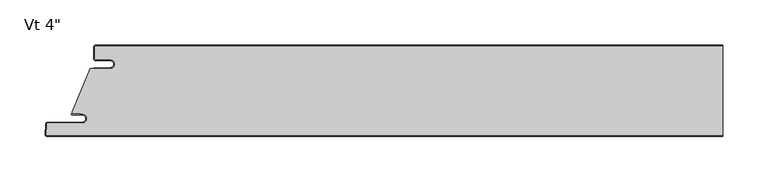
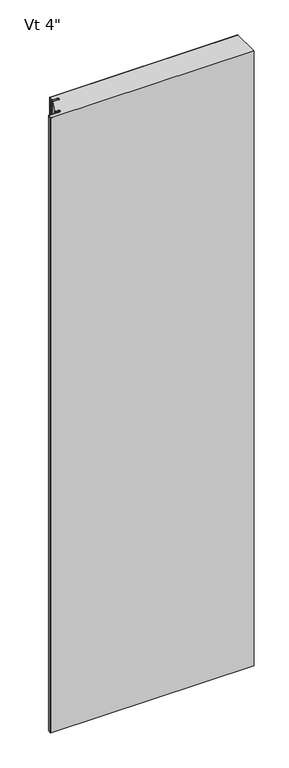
"""IFC4 building model written with IfcOpenShell, lengths in millimetres: plate geometry."""

from ifc_helpers import new_model, si_unit, point, frame_2d, origin, origin_with_axes, place, context, project, spatial, polyline, circle_curve, trimmed, segment, composite_curve, outline, extrude, source, transform, mapped, element, save


def plate_cc8460fd(model_context):
    return source(origin(), model_context, "Body", "SweptSolid", [
        extrude(outline(composite_curve([segment(polyline([(-329.8499998, -16.4625), (-345.7249998, -16.4625)]), True, "CONTINUOUS"), segment(trimmed(circle_curve(frame_2d((-345.7249998, -15.08125)), 1.38125), [point((-345.7249998, -16.4625))], [point((-347.1062498, -15.08125))], False, "CARTESIAN"), True, "CONTINUOUS"), segment(polyline([(-347.1062498, -15.08125), (-347.1062498, -2.38125)]), True, "CONTINUOUS"), segment(trimmed(circle_curve(frame_2d((-345.7249998, -2.38125)), 1.38125), [point((-347.1062498, -2.38125))], [point((-345.7249998, -1.0))], False, "CARTESIAN"), True, "CONTINUOUS"), segment(polyline([(-345.7249998, -1.0), (348.8999998, -1.0), (348.8999998, -100.6), (-399.5862034, -100.6)]), True, "CONTINUOUS"), segment(trimmed(circle_curve(frame_2d((-399.5862034, -99.21875)), 1.38125), [point((-399.5862034, -100.6))], [point((-400.9655604, -99.146461))], False, "CARTESIAN"), True, "CONTINUOUS"), segment(polyline([(-400.9655604, -99.146461), (-400.383179, -88.033961)]), True, "CONTINUOUS"), segment(trimmed(circle_curve(frame_2d((-399.0038219, -88.10625)), 1.38125), [point((-400.383179, -88.033961))], [point((-399.0038219, -86.725))], False, "CARTESIAN"), True, "CONTINUOUS"), segment(polyline([(-399.0038219, -86.725), (-360.8205173, -86.725)]), True, "CONTINUOUS"), segment(trimmed(circle_curve(frame_2d((-360.8205173, -81.75625)), 4.96875), [point((-360.8205173, -86.725))], [point((-360.8205173, -76.7875))], True, "CARTESIAN"), True, "CONTINUOUS"), segment(polyline([(-360.8205173, -76.7875), (-362.4080173, -76.99375), (-362.4080173, -76.2), (-371.9187498, -76.2), (-371.9187498, -74.6157227), (-352.0323421, -26.4), (-329.8499998, -26.4)]), True, "CONTINUOUS"), segment(trimmed(circle_curve(frame_2d((-329.8499998, -21.43125)), 4.96875), [point((-329.8499998, -26.4))], [point((-329.8499998, -16.4625))], True, "CARTESIAN"), True, "CONTINUOUS")], self_intersect=False)), origin_with_axes(), (0.0, 0.0, 1.0), 2400.0),
        extrude(outline(composite_curve([segment(polyline([(-348.1062498, -25.4), (-329.8499998, -25.4)]), True, "CONTINUOUS"), segment(trimmed(circle_curve(frame_2d((-329.8499998, -21.43125)), 3.96875), [point((-329.8499998, -25.4))], [point((-329.8499998, -17.4625))], True, "CARTESIAN"), True, "CONTINUOUS"), segment(polyline([(-329.8499998, -17.4625), (-345.7249998, -17.4625)]), True, "CONTINUOUS"), segment(trimmed(circle_curve(frame_2d((-345.7249998, -15.08125)), 2.38125), [point((-345.7249998, -17.4625))], [point((-348.1062498, -15.08125))], False, "CARTESIAN"), True, "CONTINUOUS"), segment(polyline([(-348.1062498, -15.08125), (-348.1062498, -2.38125)]), True, "CONTINUOUS"), segment(trimmed(circle_curve(frame_2d((-345.7249998, -2.38125)), 2.38125), [point((-348.1062498, -2.38125))], [point((-345.7249998, 0.0))], False, "CARTESIAN"), True, "CONTINUOUS"), segment(polyline([(-345.7249998, 0.0), (348.8999998, 0.0), (348.8999998, -1.0), (-345.7249998, -1.0)]), True, "CONTINUOUS"), segment(trimmed(circle_curve(frame_2d((-345.7249998, -2.38125)), 1.38125), [point((-345.7249998, -1.0))], [point((-347.1062498, -2.38125))], True, "CARTESIAN"), True, "CONTINUOUS"), segment(polyline([(-347.1062498, -2.38125), (-347.1062498, -15.08125)]), True, "CONTINUOUS"), segment(trimmed(circle_curve(frame_2d((-345.7249998, -15.08125)), 1.38125), [point((-347.1062498, -15.08125))], [point((-345.7249998, -16.4625))], True, "CARTESIAN"), True, "CONTINUOUS"), segment(polyline([(-345.7249998, -16.4625), (-329.8499998, -16.4625)]), True, "CONTINUOUS"), segment(trimmed(circle_curve(frame_2d((-329.8499998, -21.43125)), 4.96875), [point((-329.8499998, -16.4625))], [point((-329.8499998, -26.4))], False, "CARTESIAN"), True, "CONTINUOUS"), segment(polyline([(-329.8499998, -26.4), (-348.1062498, -26.4), (-348.1062498, -25.4)]), True, "CONTINUOUS")], self_intersect=False)), origin_with_axes(), (0.0, 0.0, 1.0), 2400.0),
        extrude(outline(composite_curve([segment(polyline([(-372.1314548, -76.2), (-362.4080173, -76.2), (-362.4080173, -76.99375), (-360.8205173, -76.7875)]), True, "CONTINUOUS"), segment(trimmed(circle_curve(frame_2d((-360.8205173, -81.75625)), 4.96875), [point((-360.8205173, -76.7875))], [point((-360.8205173, -86.725))], False, "CARTESIAN"), True, "CONTINUOUS"), segment(polyline([(-360.8205173, -86.725), (-399.0038219, -86.725)]), True, "CONTINUOUS"), segment(trimmed(circle_curve(frame_2d((-399.0038219, -88.10625)), 1.38125), [point((-399.0038219, -86.725))], [point((-400.383179, -88.033961))], True, "CARTESIAN"), True, "CONTINUOUS"), segment(polyline([(-400.383179, -88.033961), (-400.9655604, -99.146461)]), True, "CONTINUOUS"), segment(trimmed(circle_curve(frame_2d((-399.5862034, -99.21875)), 1.38125), [point((-400.9655604, -99.146461))], [point((-399.5862034, -100.6))], True, "CARTESIAN"), True, "CONTINUOUS"), segment(polyline([(-399.5862034, -100.6), (348.8999998, -100.6), (348.8999998, -101.6), (-399.5862034, -101.6)]), True, "CONTINUOUS"), segment(trimmed(circle_curve(frame_2d((-399.5862034, -99.21875)), 2.38125), [point((-399.5862034, -101.6))], [point((-401.9641899, -99.094125))], False, "CARTESIAN"), True, "CONTINUOUS"), segment(polyline([(-401.9641899, -99.094125), (-401.3818085, -87.981625)]), True, "CONTINUOUS"), segment(trimmed(circle_curve(frame_2d((-399.0038219, -88.10625)), 2.38125), [point((-401.3818085, -87.981625))], [point((-399.0038219, -85.725))], False, "CARTESIAN"), True, "CONTINUOUS"), segment(polyline([(-399.0038219, -85.725), (-360.8205173, -85.725)]), True, "CONTINUOUS"), segment(trimmed(circle_curve(frame_2d((-360.8205173, -81.75625)), 3.96875), [point((-360.8205173, -85.725))], [point((-360.8205173, -77.7875))], True, "CARTESIAN"), True, "CONTINUOUS"), segment(polyline([(-360.8205173, -77.7875), (-372.1314548, -77.7875)]), True, "CONTINUOUS"), segment(trimmed(circle_curve(frame_2d((-372.1314548, -76.99375)), 0.79375), [point((-372.1314548, -77.7875))], [point((-372.1314548, -76.2))], False, "CARTESIAN"), True, "CONTINUOUS")], self_intersect=False)), origin_with_axes(), (0.0, 0.0, 1.0), 2400.0),
    ])


if __name__ == "__main__":
    model = new_model("IFC4")
    model_context = context("Model", 3, world=origin())
    ifc_project = project(units=[si_unit("LENGTHUNIT", "METRE", prefix="MILLI")], contexts=[model_context])
    site = spatial("IfcSite", under=ifc_project)
    building = spatial("IfcBuilding", under=site)
    placement = place(None, origin())
    plate_shape = plate_cc8460fd(model_context)
    element("IfcPlate", 1, ObjectType="KIP-30-DWTR-R19-CP-Vt-F : Vt 4\"", at=placement, inside=building, context=model_context, shape_type="MappedRepresentation", body=[
        mapped(plate_shape, transform((0.0, 0.0, 0.0), x_axis=(1.0, 0.0, 0.0), y_axis=(0.0, 1.0, 0.0), z_axis=(0.0, 0.0, 1.0))),
    ])
    save(model, "model.ifc")
